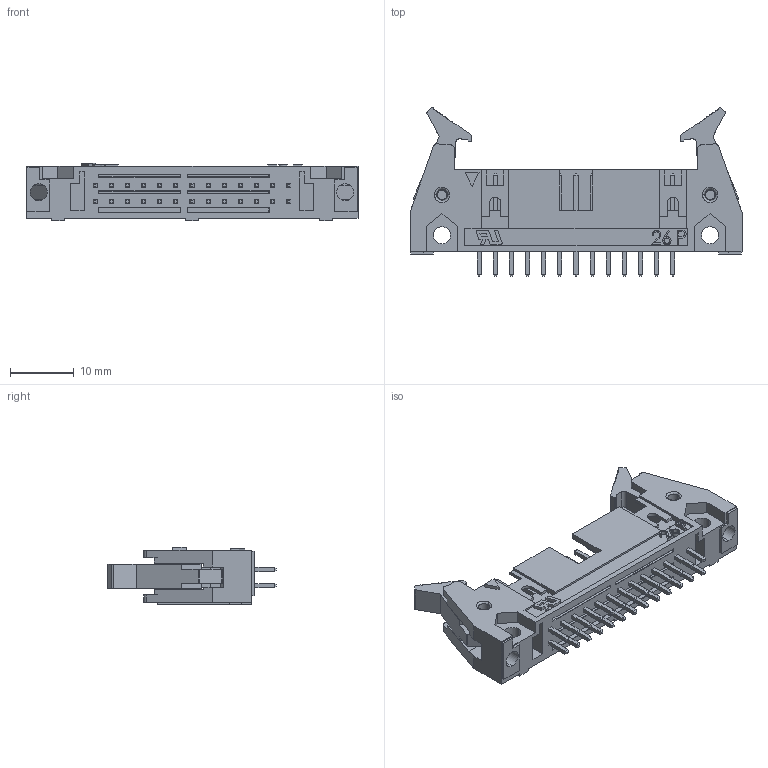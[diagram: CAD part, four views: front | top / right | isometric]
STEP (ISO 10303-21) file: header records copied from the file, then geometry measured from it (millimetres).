
FILE_DESCRIPTION (( 'STEP AP214' ), '1' );
FILE_NAME ('3011-26G00SB2A.STEP', '2017-08-04T02:33:23', ( 'RD02' ), ( '' ), 'SwSTEP 2.0', 'SolidWorks 2011', '' );
FILE_SCHEMA (( 'AUTOMOTIVE_DESIGN' ));
Length unit declared in the file: millimetre
Products named in the file (4): 3011-Y2; 3011端子; 3011-14; 3011-26G00SB2A
Assembly tree (29 placements, depth 2):
  3011-26G00SB2A
    3011端子  x26
    3011-14
    3011-Y2  x2
Bounding box: 52.2 x 26.51 x 9.1 mm (x, y, z)
Volume: 3623.7 mm3; surface area: 5444.2 mm2
Topology: 55 solids, 55 shells, 982 faces, 2310 edges, 1449 vertices
Faces by surface type: plane 842, cylinder 90, bspline 38, cone 12
Entity records: 14987 total; most frequent: CARTESIAN_POINT 3993, ORIENTED_EDGE 2258, DIRECTION 2059, EDGE_CURVE 1129, VECTOR 929, LINE 929, VERTEX_POINT 735, AXIS2_PLACEMENT_3D 565
